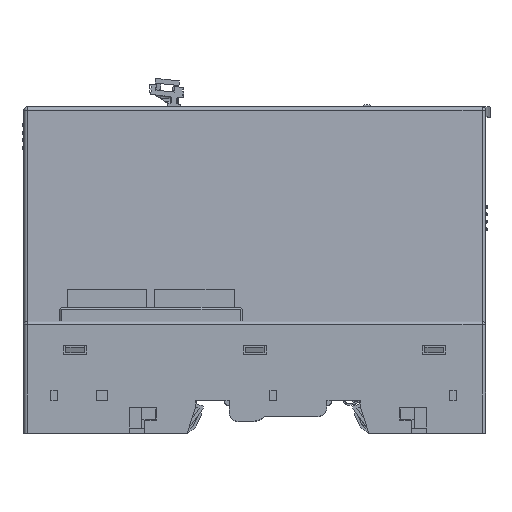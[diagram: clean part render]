
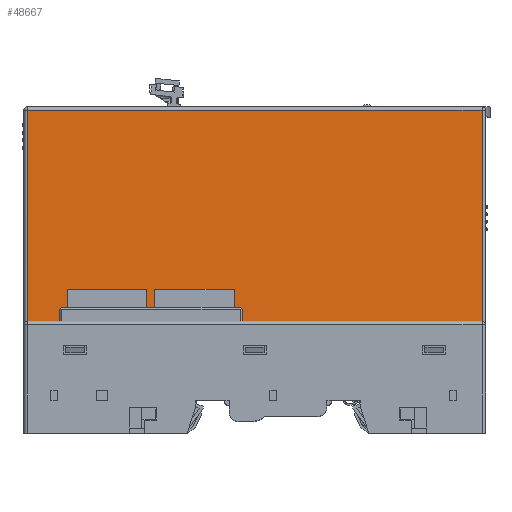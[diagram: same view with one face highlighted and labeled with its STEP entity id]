
A CAD part, top view. The second image highlights one B-rep face of the part: STEP entity #48667.
In plain terms, the highlighted planar face has unit normal (0, 0.018, 1).
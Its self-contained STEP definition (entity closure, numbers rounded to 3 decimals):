
#12241=DIRECTION('',(0.,-1.,0.017));
#12242=VECTOR('',#12241,45.27);
#12243=CARTESIAN_POINT('',(48.75,69.263,29.175));
#12244=LINE('',#12243,#12242);
#12245=DIRECTION('',(-1.,0.,0.));
#12246=VECTOR('',#12245,97.5);
#12247=CARTESIAN_POINT('',(48.75,24.,29.965));
#12248=LINE('',#12247,#12246);
#12249=DIRECTION('',(0.,1.,-0.017));
#12250=VECTOR('',#12249,45.27);
#12251=CARTESIAN_POINT('',(-48.75,24.,29.965));
#12252=LINE('',#12251,#12250);
#12253=DIRECTION('',(1.,0.,0.));
#12254=VECTOR('',#12253,97.5);
#12255=CARTESIAN_POINT('',(-48.75,69.263,29.175));
#12256=LINE('',#12255,#12254);
#29042=CARTESIAN_POINT('',(48.75,24.,29.965));
#29044=VERTEX_POINT('',#29042);
#29045=CARTESIAN_POINT('',(48.75,69.263,29.175));
#29046=VERTEX_POINT('',#29045);
#29051=CARTESIAN_POINT('',(-48.75,69.263,29.175));
#29052=VERTEX_POINT('',#29051);
#29053=CARTESIAN_POINT('',(-48.75,24.,29.965));
#29054=VERTEX_POINT('',#29053);
#48654=CARTESIAN_POINT('',(-51.102,22.,30.));
#48655=DIRECTION('',(0.,-0.017,-1.));
#48656=DIRECTION('',(-1.,0.,0.));
#48657=AXIS2_PLACEMENT_3D('',#48654,#48655,#48656);
#48658=PLANE('',#48657);
#48659=ORIENTED_EDGE('',*,*,#48645,.T.);
#48660=ORIENTED_EDGE('',*,*,#48512,.T.);
#48662=ORIENTED_EDGE('',*,*,#48661,.T.);
#48664=ORIENTED_EDGE('',*,*,#48663,.T.);
#48665=EDGE_LOOP('',(#48659,#48660,#48662,#48664));
#48666=FACE_OUTER_BOUND('',#48665,.F.);
#48667=ADVANCED_FACE('',(#48666),#48658,.F.);
#48512=EDGE_CURVE('',#29044,#29054,#12248,.T.);
#48645=EDGE_CURVE('',#29046,#29044,#12244,.T.);
#48661=EDGE_CURVE('',#29054,#29052,#12252,.T.);
#48663=EDGE_CURVE('',#29052,#29046,#12256,.T.);
